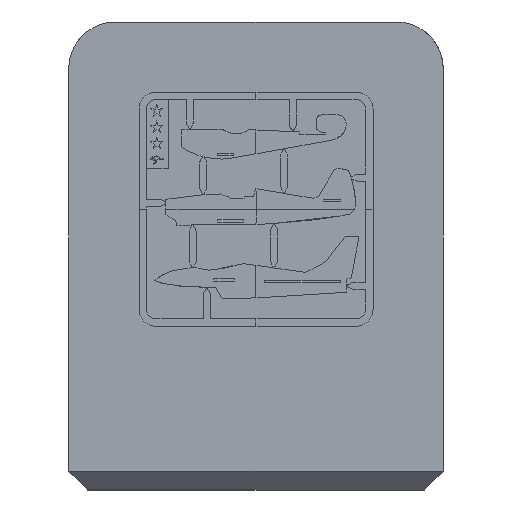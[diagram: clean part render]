
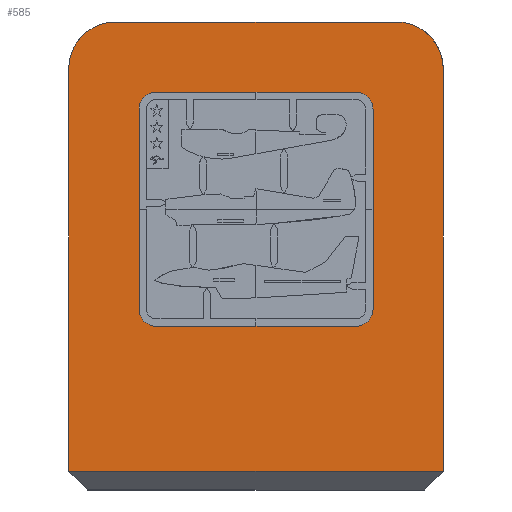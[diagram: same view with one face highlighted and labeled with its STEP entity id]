
A CAD part, front view. The second image highlights one B-rep face of the part: STEP entity #585.
In plain terms, the highlighted planar face has unit normal (0, -1, 0).
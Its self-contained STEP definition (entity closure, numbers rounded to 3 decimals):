
#25=FACE_BOUND('',#2687,.T.);
#585=ADVANCED_FACE('',(#1630,#25),#16483,.T.);
#1630=FACE_OUTER_BOUND('',#2686,.T.);
#2686=EDGE_LOOP('',(#5809,#5810,#5811,#5812,#5813,#5814));
#2687=EDGE_LOOP('',(#5815,#5816,#5817,#5818,#5819,#5820,#5821,#5822,#5823,
#5824,#5825,#5826));
#5809=ORIENTED_EDGE('',*,*,#10581,.T.);
#5810=ORIENTED_EDGE('',*,*,#10582,.T.);
#5811=ORIENTED_EDGE('',*,*,#9855,.T.);
#5812=ORIENTED_EDGE('',*,*,#9847,.T.);
#5813=ORIENTED_EDGE('',*,*,#9857,.T.);
#5814=ORIENTED_EDGE('',*,*,#9849,.T.);
#5815=ORIENTED_EDGE('',*,*,#9314,.T.);
#5816=ORIENTED_EDGE('',*,*,#9742,.F.);
#5817=ORIENTED_EDGE('',*,*,#9727,.F.);
#5818=ORIENTED_EDGE('',*,*,#9728,.F.);
#5819=ORIENTED_EDGE('',*,*,#9499,.T.);
#5820=ORIENTED_EDGE('',*,*,#9527,.T.);
#5821=ORIENTED_EDGE('',*,*,#9526,.T.);
#5822=ORIENTED_EDGE('',*,*,#9637,.F.);
#5823=ORIENTED_EDGE('',*,*,#9608,.F.);
#5824=ORIENTED_EDGE('',*,*,#9609,.F.);
#5825=ORIENTED_EDGE('',*,*,#9292,.T.);
#5826=ORIENTED_EDGE('',*,*,#9291,.T.);
#9291=EDGE_CURVE('',#14301,#14302,#12262,.T.);
#9292=EDGE_CURVE('',#14396,#14301,#12263,.T.);
#9314=EDGE_CURVE('',#14302,#14386,#12285,.T.);
#9499=EDGE_CURVE('',#14470,#14426,#12446,.T.);
#9526=EDGE_CURVE('',#14450,#14460,#12473,.T.);
#9527=EDGE_CURVE('',#14426,#14450,#12474,.T.);
#9608=EDGE_CURVE('',#14505,#14506,#12555,.T.);
#9609=EDGE_CURVE('',#14396,#14505,#12556,.T.);
#9637=EDGE_CURVE('',#14506,#14460,#12584,.T.);
#9727=EDGE_CURVE('',#14581,#14582,#12674,.T.);
#9728=EDGE_CURVE('',#14470,#14581,#12675,.T.);
#9742=EDGE_CURVE('',#14582,#14386,#12689,.T.);
#9847=EDGE_CURVE('',#14648,#14647,#12794,.T.);
#9849=EDGE_CURVE('',#14650,#15168,#12796,.T.);
#9855=EDGE_CURVE('',#14644,#14648,#11387,.T.);
#9857=EDGE_CURVE('',#14647,#14650,#11389,.T.);
#10581=EDGE_CURVE('',#15168,#15170,#13486,.T.);
#10582=EDGE_CURVE('',#15170,#14644,#13487,.T.);
#11387=(
BOUNDED_CURVE()
B_SPLINE_CURVE(2,(#76119,#76120,#76121),.UNSPECIFIED.,.F.,.F.)
B_SPLINE_CURVE_WITH_KNOTS((3,3),(0.,1.571),.UNSPECIFIED.)
CURVE()
GEOMETRIC_REPRESENTATION_ITEM()
RATIONAL_B_SPLINE_CURVE((1.,0.707,1.))
REPRESENTATION_ITEM('')
);
#11389=(
BOUNDED_CURVE()
B_SPLINE_CURVE(2,(#76125,#76126,#76127),.UNSPECIFIED.,.F.,.F.)
B_SPLINE_CURVE_WITH_KNOTS((3,3),(0.,1.571),.UNSPECIFIED.)
CURVE()
GEOMETRIC_REPRESENTATION_ITEM()
RATIONAL_B_SPLINE_CURVE((1.,0.707,1.))
REPRESENTATION_ITEM('')
);
#12262=B_SPLINE_CURVE_WITH_KNOTS('',3,(#74022,#74023,#74024,#74025),
 .UNSPECIFIED.,.F.,.F.,(4,4),(666.796,667.796),
 .UNSPECIFIED.);
#12263=B_SPLINE_CURVE_WITH_KNOTS('',3,(#74026,#74027,#74028,#74029),
 .UNSPECIFIED.,.F.,.F.,(4,4),(569.851,666.796),
 .UNSPECIFIED.);
#12285=B_SPLINE_CURVE_WITH_KNOTS('',3,(#74117,#74118,#74119,#74120),
 .UNSPECIFIED.,.F.,.F.,(4,4),(97.945,194.89),.UNSPECIFIED.);
#12446=B_SPLINE_CURVE_WITH_KNOTS('',3,(#74992,#74993,#74994,#74995),
 .UNSPECIFIED.,.F.,.F.,(4,4),(807.847,904.792),
 .UNSPECIFIED.);
#12473=B_SPLINE_CURVE_WITH_KNOTS('',3,(#75106,#75107,#75108,#75109),
 .UNSPECIFIED.,.F.,.F.,(4,4),(105.032,201.977),.UNSPECIFIED.);
#12474=B_SPLINE_CURVE_WITH_KNOTS('',3,(#75110,#75111,#75112,#75113),
 .UNSPECIFIED.,.F.,.F.,(4,4),(104.032,105.032),.UNSPECIFIED.);
#12555=B_SPLINE_CURVE_WITH_KNOTS('',3,(#75350,#75351,#75352,#75353),
 .UNSPECIFIED.,.F.,.F.,(4,4),(-105.032,-104.032),.UNSPECIFIED.);
#12556=B_SPLINE_CURVE_WITH_KNOTS('',3,(#75354,#75355,#75356,#75357),
 .UNSPECIFIED.,.F.,.F.,(4,4),(-201.976,-105.032),.UNSPECIFIED.);
#12584=B_SPLINE_CURVE_WITH_KNOTS('',3,(#75478,#75479,#75480,#75481),
 .UNSPECIFIED.,.F.,.F.,(4,4),(-791.803,-694.858),
 .UNSPECIFIED.);
#12674=B_SPLINE_CURVE_WITH_KNOTS('',3,(#75755,#75756,#75757,#75758),
 .UNSPECIFIED.,.F.,.F.,(4,4),(-105.032,-104.032),.UNSPECIFIED.);
#12675=B_SPLINE_CURVE_WITH_KNOTS('',3,(#75759,#75760,#75761,#75762),
 .UNSPECIFIED.,.F.,.F.,(4,4),(-201.977,-105.032),.UNSPECIFIED.);
#12689=B_SPLINE_CURVE_WITH_KNOTS('',3,(#75818,#75819,#75820,#75821),
 .UNSPECIFIED.,.F.,.F.,(4,4),(-667.399,-570.454),
 .UNSPECIFIED.);
#12794=B_SPLINE_CURVE_WITH_KNOTS('',1,(#76102,#76103),.UNSPECIFIED.,.F.,
 .F.,(2,2),(19.,25.),.UNSPECIFIED.);
#12796=B_SPLINE_CURVE_WITH_KNOTS('',1,(#76106,#76107),.UNSPECIFIED.,.F.,
 .F.,(2,2),(27.,35.6),.UNSPECIFIED.);
#13486=B_SPLINE_CURVE_WITH_KNOTS('',1,(#79031,#79032),.UNSPECIFIED.,.F.,
 .F.,(2,2),(0.,8.),.UNSPECIFIED.);
#13487=B_SPLINE_CURVE_WITH_KNOTS('',1,(#79033,#79034),.UNSPECIFIED.,.F.,
 .F.,(2,2),(8.4,17.),.UNSPECIFIED.);
#14301=VERTEX_POINT('',#65915);
#14302=VERTEX_POINT('',#65916);
#14386=VERTEX_POINT('',#66000);
#14396=VERTEX_POINT('',#66010);
#14426=VERTEX_POINT('',#66040);
#14450=VERTEX_POINT('',#66064);
#14460=VERTEX_POINT('',#66074);
#14470=VERTEX_POINT('',#66084);
#14505=VERTEX_POINT('',#66119);
#14506=VERTEX_POINT('',#66120);
#14581=VERTEX_POINT('',#66195);
#14582=VERTEX_POINT('',#66196);
#14644=VERTEX_POINT('',#66258);
#14647=VERTEX_POINT('',#66261);
#14648=VERTEX_POINT('',#66262);
#14650=VERTEX_POINT('',#66264);
#15168=VERTEX_POINT('',#66782);
#15170=VERTEX_POINT('',#66784);
#16483=PLANE('',#16994);
#16994=AXIS2_PLACEMENT_3D('',#64426,#17500,$);
#17500=DIRECTION('',(0.,-1.,0.));
#64426=CARTESIAN_POINT('',(-4.,-15.,0.));
#65915=CARTESIAN_POINT('',(-2.5,-15.,8.137));
#65916=CARTESIAN_POINT('',(-2.138,-15.,8.5));
#66000=CARTESIAN_POINT('',(0.,-15.,8.5));
#66010=CARTESIAN_POINT('',(-2.5,-15.,6.));
#66040=CARTESIAN_POINT('',(2.5,-15.,3.862));
#66064=CARTESIAN_POINT('',(2.137,-15.,3.5));
#66074=CARTESIAN_POINT('',(0.,-15.,3.5));
#66084=CARTESIAN_POINT('',(2.5,-15.,6.));
#66119=CARTESIAN_POINT('',(-2.5,-15.,3.862));
#66120=CARTESIAN_POINT('',(-2.138,-15.,3.5));
#66195=CARTESIAN_POINT('',(2.5,-15.,8.137));
#66196=CARTESIAN_POINT('',(2.137,-15.,8.5));
#66258=CARTESIAN_POINT('',(4.,-15.,9.));
#66261=CARTESIAN_POINT('',(-3.,-15.,10.));
#66262=CARTESIAN_POINT('',(3.,-15.,10.));
#66264=CARTESIAN_POINT('',(-4.,-15.,9.));
#66782=CARTESIAN_POINT('',(-4.,-15.,0.4));
#66784=CARTESIAN_POINT('',(4.,-15.,0.4));
#74022=CARTESIAN_POINT('',(-2.5,-15.,8.137));
#74023=CARTESIAN_POINT('',(-2.5,-15.,8.337));
#74024=CARTESIAN_POINT('',(-2.337,-15.,8.5));
#74025=CARTESIAN_POINT('',(-2.138,-15.,8.5));
#74026=CARTESIAN_POINT('',(-2.5,-15.,6.));
#74027=CARTESIAN_POINT('',(-2.5,-15.,6.712));
#74028=CARTESIAN_POINT('',(-2.5,-15.,7.425));
#74029=CARTESIAN_POINT('',(-2.5,-15.,8.137));
#74117=CARTESIAN_POINT('',(-2.138,-15.,8.5));
#74118=CARTESIAN_POINT('',(-1.425,-15.,8.5));
#74119=CARTESIAN_POINT('',(-0.713,-15.,8.5));
#74120=CARTESIAN_POINT('',(0.,-15.,8.5));
#74992=CARTESIAN_POINT('',(2.5,-15.,6.));
#74993=CARTESIAN_POINT('',(2.5,-15.,5.287));
#74994=CARTESIAN_POINT('',(2.5,-15.,4.575));
#74995=CARTESIAN_POINT('',(2.5,-15.,3.862));
#75106=CARTESIAN_POINT('',(2.137,-15.,3.5));
#75107=CARTESIAN_POINT('',(1.425,-15.,3.5));
#75108=CARTESIAN_POINT('',(0.712,-15.,3.5));
#75109=CARTESIAN_POINT('',(0.,-15.,3.5));
#75110=CARTESIAN_POINT('',(2.5,-15.,3.862));
#75111=CARTESIAN_POINT('',(2.5,-15.,3.663));
#75112=CARTESIAN_POINT('',(2.337,-15.,3.5));
#75113=CARTESIAN_POINT('',(2.137,-15.,3.5));
#75350=CARTESIAN_POINT('',(-2.5,-15.,3.862));
#75351=CARTESIAN_POINT('',(-2.5,-15.,3.663));
#75352=CARTESIAN_POINT('',(-2.337,-15.,3.5));
#75353=CARTESIAN_POINT('',(-2.138,-15.,3.5));
#75354=CARTESIAN_POINT('',(-2.5,-15.,6.));
#75355=CARTESIAN_POINT('',(-2.5,-15.,5.287));
#75356=CARTESIAN_POINT('',(-2.5,-15.,4.575));
#75357=CARTESIAN_POINT('',(-2.5,-15.,3.862));
#75478=CARTESIAN_POINT('',(-2.138,-15.,3.5));
#75479=CARTESIAN_POINT('',(-1.425,-15.,3.5));
#75480=CARTESIAN_POINT('',(-0.713,-15.,3.5));
#75481=CARTESIAN_POINT('',(0.,-15.,3.5));
#75755=CARTESIAN_POINT('',(2.5,-15.,8.137));
#75756=CARTESIAN_POINT('',(2.5,-15.,8.337));
#75757=CARTESIAN_POINT('',(2.337,-15.,8.5));
#75758=CARTESIAN_POINT('',(2.137,-15.,8.5));
#75759=CARTESIAN_POINT('',(2.5,-15.,6.));
#75760=CARTESIAN_POINT('',(2.5,-15.,6.712));
#75761=CARTESIAN_POINT('',(2.5,-15.,7.425));
#75762=CARTESIAN_POINT('',(2.5,-15.,8.137));
#75818=CARTESIAN_POINT('',(2.137,-15.,8.5));
#75819=CARTESIAN_POINT('',(1.425,-15.,8.5));
#75820=CARTESIAN_POINT('',(0.712,-15.,8.5));
#75821=CARTESIAN_POINT('',(0.,-15.,8.5));
#76102=CARTESIAN_POINT('',(3.,-15.,10.));
#76103=CARTESIAN_POINT('',(-3.,-15.,10.));
#76106=CARTESIAN_POINT('',(-4.,-15.,9.));
#76107=CARTESIAN_POINT('',(-4.,-15.,0.4));
#76119=CARTESIAN_POINT('',(4.,-15.,9.));
#76120=CARTESIAN_POINT('',(4.,-15.,10.));
#76121=CARTESIAN_POINT('',(3.,-15.,10.));
#76125=CARTESIAN_POINT('',(-3.,-15.,10.));
#76126=CARTESIAN_POINT('',(-4.,-15.,10.));
#76127=CARTESIAN_POINT('',(-4.,-15.,9.));
#79031=CARTESIAN_POINT('',(-4.,-15.,0.4));
#79032=CARTESIAN_POINT('',(4.,-15.,0.4));
#79033=CARTESIAN_POINT('',(4.,-15.,0.4));
#79034=CARTESIAN_POINT('',(4.,-15.,9.));
